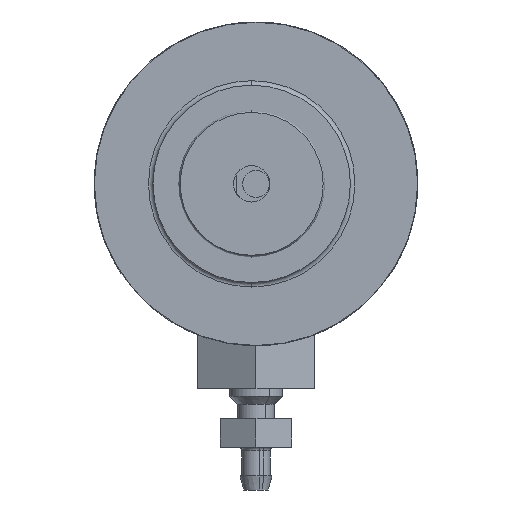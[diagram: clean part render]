
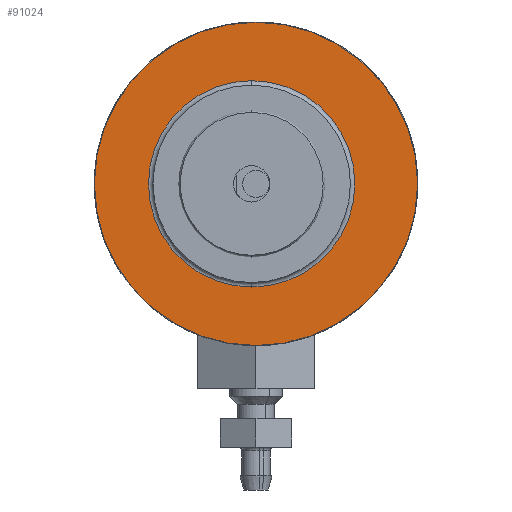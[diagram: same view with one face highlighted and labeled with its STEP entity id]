
A CAD part, front view. The second image highlights one B-rep face of the part: STEP entity #91024.
In plain terms, the highlighted planar face has unit normal (0, -1, 0).
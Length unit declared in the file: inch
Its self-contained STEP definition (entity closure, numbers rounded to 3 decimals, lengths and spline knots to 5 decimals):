
#437 = DIRECTION ( 'NONE',  ( 0., 0., 1. ) ) ;
#2671 = FACE_BOUND ( 'NONE', #36181, .T. ) ;
#2677 = AXIS2_PLACEMENT_3D ( 'NONE', #93328, #17644, #53478 ) ;
#3243 = FACE_OUTER_BOUND ( 'NONE', #103398, .T. ) ;
#13654 = ORIENTED_EDGE ( 'NONE', *, *, #68408, .F. ) ;
#14995 = EDGE_CURVE ( 'NONE', #41976, #56697, #74785, .T. ) ;
#17644 = DIRECTION ( 'NONE',  ( 0., 1., 0. ) ) ;
#21353 = CARTESIAN_POINT ( 'NONE',  ( 0.0189, 0.51378, 0.70768 ) ) ;
#30067 = CIRCLE ( 'NONE', #54477, 0.45177 ) ;
#31865 = ORIENTED_EDGE ( 'NONE', *, *, #99702, .T. ) ;
#34883 = CARTESIAN_POINT ( 'NONE',  ( 0., 0.51378, 0. ) ) ;
#36181 = EDGE_LOOP ( 'NONE', ( #96430, #31865 ) ) ;
#41976 = VERTEX_POINT ( 'NONE', #75515 ) ;
#44026 = VERTEX_POINT ( 'NONE', #90210 ) ;
#46230 = VERTEX_POINT ( 'NONE', #63755 ) ;
#53478 = DIRECTION ( 'NONE',  ( 0., 0., 1. ) ) ;
#54062 = CARTESIAN_POINT ( 'NONE',  ( 0., 0.51378, 0. ) ) ;
#54477 = AXIS2_PLACEMENT_3D ( 'NONE', #54062, #61843, #103856 ) ;
#56697 = VERTEX_POINT ( 'NONE', #21353 ) ;
#59615 = PLANE ( 'NONE',  #2677 ) ;
#61843 = DIRECTION ( 'NONE',  ( 0., 1., 0. ) ) ;
#63480 = CIRCLE ( 'NONE', #102293, 0.70768 ) ;
#63755 = CARTESIAN_POINT ( 'NONE',  ( 0., 0.51378, 0.45177 ) ) ;
#68408 = EDGE_CURVE ( 'NONE', #56697, #41976, #63480, .T. ) ;
#71382 = DIRECTION ( 'NONE',  ( 0., 0., 1. ) ) ;
#74785 = CIRCLE ( 'NONE', #88891, 0.70768 ) ;
#75515 = CARTESIAN_POINT ( 'NONE',  ( 0.0189, 0.51378, -0.70768 ) ) ;
#77419 = DIRECTION ( 'NONE',  ( 0., 1., 0. ) ) ;
#78040 = CARTESIAN_POINT ( 'NONE',  ( 0.0189, 0.51378, 0. ) ) ;
#81278 = CARTESIAN_POINT ( 'NONE',  ( 0.0189, 0.51378, 0. ) ) ;
#82722 = EDGE_CURVE ( 'NONE', #46230, #44026, #84929, .T. ) ;
#84637 = DIRECTION ( 'NONE',  ( 0., 0., 1. ) ) ;
#84929 = CIRCLE ( 'NONE', #107939, 0.45177 ) ;
#88891 = AXIS2_PLACEMENT_3D ( 'NONE', #78040, #104606, #71382 ) ;
#90210 = CARTESIAN_POINT ( 'NONE',  ( 0., 0.51378, -0.45177 ) ) ;
#91024 = ADVANCED_FACE ( 'NONE', ( #2671, #3243 ), #59615, .F. ) ;
#93328 = CARTESIAN_POINT ( 'NONE',  ( 0.0189, 0.51378, 0. ) ) ;
#93991 = ORIENTED_EDGE ( 'NONE', *, *, #14995, .F. ) ;
#96430 = ORIENTED_EDGE ( 'NONE', *, *, #82722, .T. ) ;
#99702 = EDGE_CURVE ( 'NONE', #44026, #46230, #30067, .T. ) ;
#102293 = AXIS2_PLACEMENT_3D ( 'NONE', #81278, #108764, #437 ) ;
#103398 = EDGE_LOOP ( 'NONE', ( #93991, #13654 ) ) ;
#103856 = DIRECTION ( 'NONE',  ( 0., 0., 1. ) ) ;
#104606 = DIRECTION ( 'NONE',  ( 0., 1., 0. ) ) ;
#107939 = AXIS2_PLACEMENT_3D ( 'NONE', #34883, #77419, #84637 ) ;
#108764 = DIRECTION ( 'NONE',  ( 0., 1., 0. ) ) ;
